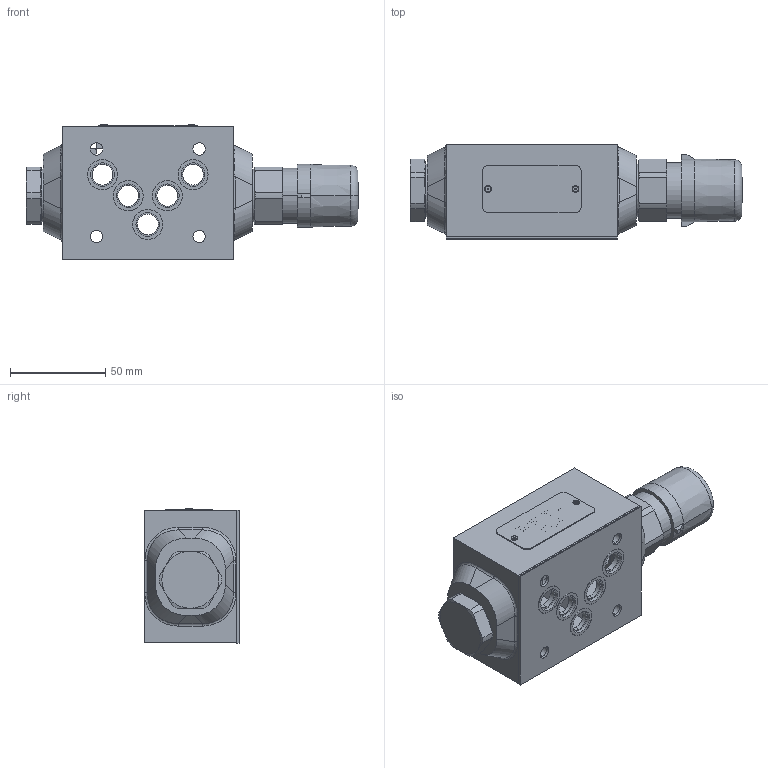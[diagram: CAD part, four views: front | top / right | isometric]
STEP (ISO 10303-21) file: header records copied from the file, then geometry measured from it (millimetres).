
FILE_DESCRIPTION((''),'2;1');
FILE_NAME('34484300_VSO3_10_MBT_ASM','2018-10-17T',('l.soukupova'),(''),'PRO/ENGINEER BY PARAMETRIC TECHNOLOGY CORPORATION, 2015440','PRO/ENGINEER BY PARAMETRIC TECHNOLOGY CORPORATION, 2015440','');
FILE_SCHEMA(('AUTOMOTIVE_DESIGN { 1 0 10303 214 1 1 1 1 }'));
Length unit declared in the file: millimetre
Products named in the file (20): 31453400_AF1; 31453500_AF1; 31454100_AF2; 31454300_AF0; ISO_4035_M8_202508_AF1; ISO_4762_M8X25_88_ZN_AF1; 31453300_AF2; ORIA00690_169519_AF1; 20116500_AF1; 551_0200_AF3; 31455000_AF3; RD_LABEL_25X52_159703; AF_1932_16485; BG2000220_242154_AF0; BG2000220_242154_AF1; OR2502150_201455_AF0; OR2502150_201455_AF1; 530_2091; DKAR00014_N70; 34484300_VSO3_10_MBT_ASM
Assembly tree (24 placements, depth 2):
  34484300_VSO3_10_MBT_ASM
    31453400_AF1
    31453500_AF1
    31454100_AF2
    31454300_AF0
    ISO_4035_M8_202508_AF1
    ISO_4762_M8X25_88_ZN_AF1
    31453300_AF2
    ORIA00690_169519_AF1
    20116500_AF1
    551_0200_AF3
    31455000_AF3
    RD_LABEL_25X52_159703
    AF_1932_16485  x2
    BG2000220_242154_AF0
    BG2000220_242154_AF1
    OR2502150_201455_AF0
    OR2502150_201455_AF1
    530_2091
    DKAR00014_N70  x5
Bounding box: 174.5 x 50.28 x 70.75 mm (x, y, z)
Volume: 214503.9 mm3; surface area: 91909 mm2
Topology: 17 solids, 27 shells, 942 faces, 2818 edges, 2114 vertices
Faces by surface type: plane 575, cylinder 230, torus 56, cone 51, bspline 24, sphere 6
Entity records: 50883 total; most frequent: CARTESIAN_POINT 10883, DIRECTION 5159, ORIENTED_EDGE 4838, PRESENTATION_STYLE_ASSIGNMENT 3650, STYLED_ITEM 3627, CURVE_STYLE 2854, EDGE_CURVE 2440, VECTOR 1919
